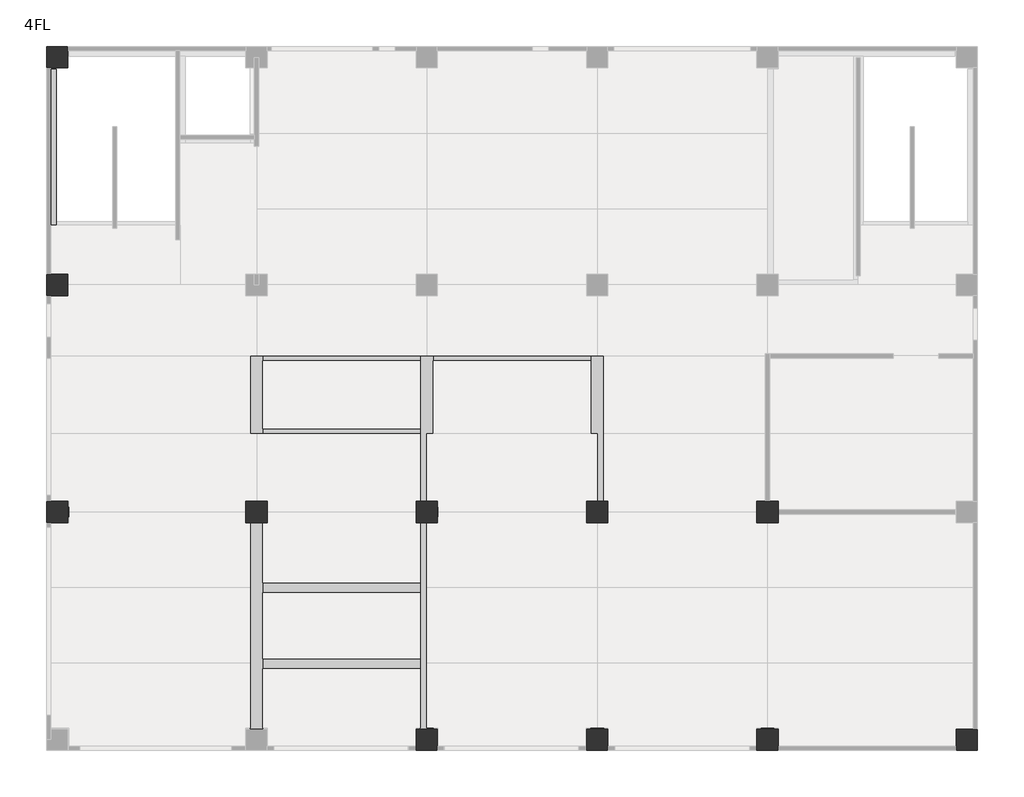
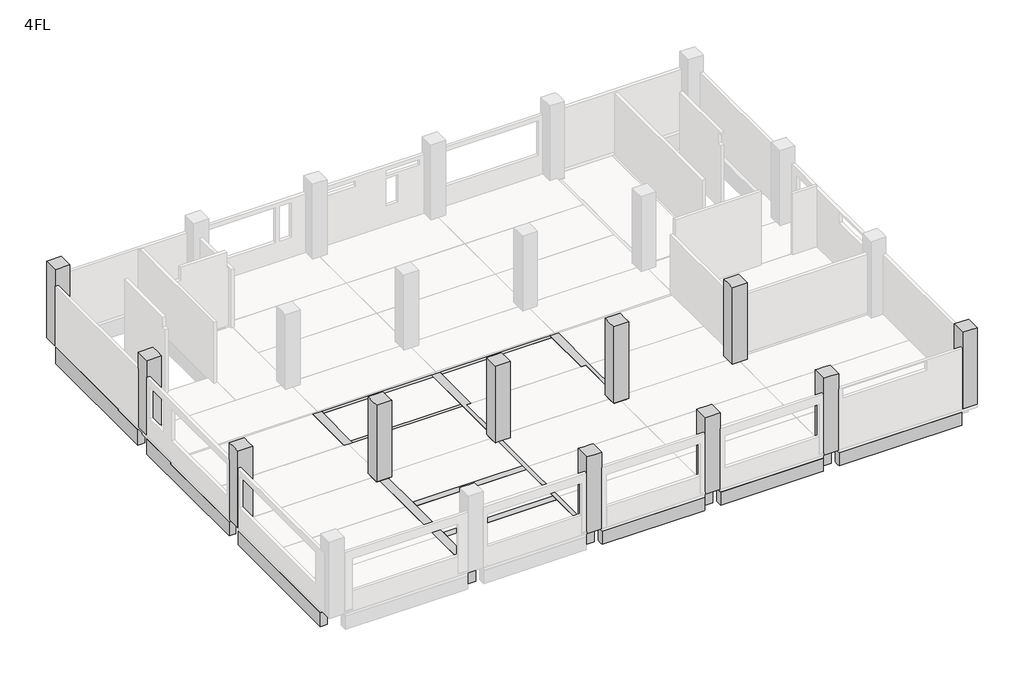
# One storey, part 3 of 4: 37 beams, 11 columns.
"""IFC4 building model written with IfcOpenShell, lengths in millimetres."""

import ifcopenshell
import ifcopenshell.guid

model = None  # the IFC model being written
_history = None  # IfcOwnerHistory: only IFC2X3 demands one
_inside = {}  # id of a spatial element -> (the spatial element, [elements in it])
_under = {}  # id of a project, library or spatial element -> (it, [spatial elements below it])
_declared = {}  # id of a project -> (the project, [libraries it declares])
_typed = {}  # id of a type object -> (the type object, [elements of that type])
_made_of = {}  # id of a material, layer set ... -> (it, [elements and type objects made of it])


def new_model(schema):
    """Start an empty IFC model of exactly this schema.

    Asked for "IFC4X3", IfcOpenShell would pick the latest addendum, in which some entities
    have other attributes; the version numbers below select the first issue.
    IFC2X3 requires an IfcOwnerHistory on every rooted entity: one is made here for all.
    """
    global model, _history
    if schema == "IFC4X3":
        model = ifcopenshell.file(schema_version=(4, 3, 0, 0))
    else:
        model = ifcopenshell.file(schema=schema)
    _inside.clear()
    _under.clear()
    _declared.clear()
    _typed.clear()
    _made_of.clear()
    _history = None
    if model.schema == "IFC2X3":
        org = make("IfcOrganization", Name="unknown")
        user = make(
            "IfcPersonAndOrganization",
            ThePerson=make("IfcPerson", FamilyName="unknown"),
            TheOrganization=org,
        )
        app = make(
            "IfcApplication",
            ApplicationDeveloper=org,
            Version="unknown",
            ApplicationFullName="unknown",
            ApplicationIdentifier="unknown",
        )
        _history = make(
            "IfcOwnerHistory",
            OwningUser=user,
            OwningApplication=app,
            ChangeAction="ADDED",
            CreationDate=0,
        )
    return model


def make(cls, **values):
    """One entity of the class cls with the attributes given. An attribute that is None is left unset."""
    return model.create_entity(
        cls, **{name: value for name, value in values.items() if value is not None}
    )


def rooted(cls, **values):
    """An entity with a GlobalId (a new one), such as an element, a storey or a relation."""
    return make(cls, GlobalId=ifcopenshell.guid.new(), OwnerHistory=_history, **values)


def si_unit(unit_type, name, prefix=None):
    """IfcSIUnit, for example si_unit("LENGTHUNIT", "METRE", prefix="MILLI")."""
    return make("IfcSIUnit", UnitType=unit_type, Prefix=prefix, Name=name)


def assignment(units):
    """IfcUnitAssignment: the units of a project."""
    return None if units is None else make("IfcUnitAssignment", Units=units)


def point(xyz):
    """IfcCartesianPoint."""
    return None if xyz is None else make("IfcCartesianPoint", Coordinates=xyz)


def direction(xyz):
    """IfcDirection."""
    return None if xyz is None else make("IfcDirection", DirectionRatios=xyz)


def frame(location, z_axis=None, x_axis=None):
    """IfcAxis2Placement3D, a coordinate frame: its origin and axes. An axis left out is left unset."""
    return make(
        "IfcAxis2Placement3D",
        Location=point(location),
        Axis=direction(z_axis),
        RefDirection=direction(x_axis),
    )


def origin():
    """The frame at (0, 0, 0) with its axes left unset."""
    return frame((0.0, 0.0, 0.0))


def place(relative_to, where):
    """IfcLocalPlacement: puts the frame where relative to a parent placement (None: the world)."""
    return make(
        "IfcLocalPlacement", PlacementRelTo=relative_to, RelativePlacement=where
    )


def context(
    kind, dimensions, precision=None, world=None, true_north=None, identifier=None
):
    """IfcGeometricRepresentationContext, for example the 3D "Model" context."""
    return make(
        "IfcGeometricRepresentationContext",
        ContextIdentifier=identifier,
        ContextType=kind,
        CoordinateSpaceDimension=dimensions,
        Precision=precision,
        WorldCoordinateSystem=world,
        TrueNorth=true_north,
    )


def project(units=None, contexts=None):
    """IfcProject with its units and contexts."""
    return rooted(
        "IfcProject",
        Name="project",
        RepresentationContexts=contexts,
        UnitsInContext=assignment(units),
    )


def spatial(cls, under=None, at=None, **own):
    """A site, building, storey or space (cls), placed at a placement, below another one or the project."""
    s = rooted(cls, ObjectPlacement=at, **own)
    if under is not None:
        _under.setdefault(under.id(), (under, []))[1].append(s)
    return s


def polyline(points):
    """IfcPolyline through the points."""
    return make("IfcPolyline", Points=[point(p) for p in points])


def outline(outer, holes=None, kind="AREA"):
    """IfcArbitraryClosedProfileDef: a profile drawn as a closed curve; with holes, ...WithVoids."""
    if holes is None:
        return make("IfcArbitraryClosedProfileDef", ProfileType=kind, OuterCurve=outer)
    return make(
        "IfcArbitraryProfileDefWithVoids",
        ProfileType=kind,
        OuterCurve=outer,
        InnerCurves=holes,
    )


def extrude(swept, where, along, depth):
    """IfcExtrudedAreaSolid: the profile swept, set in the frame where, extruded along a direction by depth."""
    return make(
        "IfcExtrudedAreaSolid",
        SweptArea=swept,
        Position=where,
        ExtrudedDirection=direction(along),
        Depth=depth,
    )


def faces_of(points, faces, orient=None, outer=None):
    """IfcFace entities. A face is a list of loops; a loop is a list of indices into points, from 0.

    orient and outer hold one flag for each loop. By default every Orientation is true, the
    first loop of a face is its IfcFaceOuterBound and the others are IfcFaceBound.
    """
    made = []
    for i, loops in enumerate(faces):
        bounds = []
        for j, loop in enumerate(loops):
            is_outer = j == 0 if outer is None else outer[i][j]
            bounds.append(
                make(
                    "IfcFaceOuterBound" if is_outer else "IfcFaceBound",
                    Bound=make("IfcPolyLoop", Polygon=[points[k] for k in loop]),
                    Orientation=True if orient is None else orient[i][j],
                )
            )
        made.append(make("IfcFace", Bounds=bounds))
    return made


def faceted_brep(points, faces, orient=None, outer=None, voids=None):
    """IfcFacetedBrep: a solid bounded by flat faces; with voids (closed shells), ...WithVoids."""
    shared = [point(p) for p in points]
    hull = make("IfcClosedShell", CfsFaces=faces_of(shared, faces, orient, outer))
    if voids is None:
        return make("IfcFacetedBrep", Outer=hull)
    return make(
        "IfcFacetedBrepWithVoids",
        Outer=hull,
        Voids=[
            make(cls, CfsFaces=faces_of(shared, fs, o, b)) for cls, fs, o, b in voids
        ],
    )


def shape(context_of_items, identifier, shape_type, items):
    """IfcShapeRepresentation: the items that make up one representation, for example the "Body"."""
    return make(
        "IfcShapeRepresentation",
        ContextOfItems=context_of_items,
        RepresentationIdentifier=identifier,
        RepresentationType=shape_type,
        Items=items,
    )


def made_of(thing, what):
    """Note that an element or type object is made of a material, layer set ...; save() writes the relation."""
    if what is not None:
        _made_of.setdefault(what.id(), (what, []))[1].append(thing)
    return thing


def element(
    cls,
    number,
    at=None,
    inside=None,
    cuts=None,
    type_object=None,
    material=None,
    context=None,
    identifier="Body",
    shape_type=None,
    held_by="IfcProductDefinitionShape",
    body=None,
    shapes=None,
    **own,
):
    """One element of the class cls, such as IfcWall. Its Tag is "e" and its number.

    at: its placement. inside: the storey or other place that contains it. cuts: it is an
    opening in that element (IfcRelVoidsElement). A single representation is given by context,
    identifier, shape_type and body (its items); several are given by shapes. held_by: the class
    of the entity that holds the representations. save() writes the other relations.
    """
    e = rooted(cls, Tag="e%d" % number, ObjectPlacement=at, **own)
    if body is not None:
        shapes = [shape(context, identifier, shape_type, body)]
    if shapes is not None:
        e.Representation = make(held_by, Representations=shapes)
    if inside is not None:
        _inside.setdefault(inside.id(), (inside, []))[1].append(e)
    if cuts is not None:
        rooted(
            "IfcRelVoidsElement", RelatingBuildingElement=cuts, RelatedOpeningElement=e
        )
    if type_object is not None:
        _typed.setdefault(type_object.id(), (type_object, []))[1].append(e)
    return made_of(e, material)


def aggregate(whole, parts):
    """IfcRelAggregates: a whole, such as a stair, and the parts it consists of."""
    return rooted("IfcRelAggregates", RelatingObject=whole, RelatedObjects=parts)


def save(model, path):
    """Write the relations noted so far, then the file.

    IfcRelAggregates (storeys below a building ...), IfcRelContainedInSpatialStructure (elements
    in a storey), IfcRelDefinesByType, IfcRelAssociatesMaterial and IfcRelDeclares: one each for
    every whole, place, type object, material and project.
    """
    for whole, parts in _under.values():
        aggregate(whole, parts)
    for where, things in _inside.values():
        rooted(
            "IfcRelContainedInSpatialStructure",
            RelatedElements=things,
            RelatingStructure=where,
        )
    for kind, things in _typed.values():
        rooted("IfcRelDefinesByType", RelatedObjects=things, RelatingType=kind)
    for what, things in _made_of.values():
        rooted("IfcRelAssociatesMaterial", RelatedObjects=things, RelatingMaterial=what)
    for by, libraries in _declared.values():
        rooted("IfcRelDeclares", RelatingContext=by, RelatedDefinitions=libraries)
    model.write(path)


model = new_model("IFC4")

# Units and contexts
model_context = context("Model", 3, world=origin())
ifc_project = project(units=[si_unit("LENGTHUNIT", "METRE", prefix="MILLI")], contexts=[model_context])

# Site, building, storey
site = spatial("IfcSite", under=ifc_project)
building = spatial("IfcBuilding", under=site)
storey = spatial("IfcBuildingStorey", under=building, Name="4FL", Elevation=12300.0)

# Beams
placement = place(None, origin())
element("IfcBeam", 1, ObjectType="RC_B : 4G1", at=placement, inside=storey, context=model_context, shape_type="Brep", body=[
    faceted_brep([(18600.0, -50.0, 12050.0), (18600.0, -50.0, 11350.0), (13400.0, -50.0, 11350.0), (13400.0, -50.0, 12050.0), (18600.0, -400.0, 11350.0), (18575.0, -400.0, 11350.0), (13400.0, -400.0, 11350.0), (13400.0, -250.0, 11350.0), (18600.0, -400.0, 12050.0), (13400.0, -400.0, 12050.0)], [[[0, 1, 2, 3]], [[1, 4, 5, 6, 7, 2]], [[4, 8, 9, 6, 5]], [[4, 1, 0, 8]], [[8, 0, 3, 9]], [[3, 2, 7, 6, 9]]]),
])
element("IfcBeam", 2, ObjectType="RC_B : 4G1", at=placement, inside=storey, context=model_context, shape_type="Brep", body=[
    faceted_brep([(24600.0, -50.0, 12050.0), (24600.0, -50.0, 11350.0), (19400.0, -50.0, 11350.0), (19400.0, -50.0, 12050.0), (24600.0, -400.0, 11350.0), (24575.0, -400.0, 11350.0), (19400.0, -400.0, 11350.0), (19400.0, -250.0, 11350.0), (24600.0, -400.0, 12050.0), (19400.0, -400.0, 12050.0)], [[[0, 1, 2, 3]], [[1, 4, 5, 6, 7, 2]], [[4, 8, 9, 6, 5]], [[4, 1, 0, 8]], [[8, 0, 3, 9]], [[3, 2, 7, 6, 9]]]),
])
element("IfcBeam", 3, ObjectType="RC_B : 4G1", at=placement, inside=storey, context=model_context, shape_type="Brep", body=[
    faceted_brep([(31600.0, -50.0, 12050.0), (31600.0, -50.0, 11350.0), (25400.0, -50.0, 11350.0), (25400.0, -50.0, 12050.0), (31600.0, -250.0, 11350.0), (31600.0, -400.0, 11350.0), (25400.0, -400.0, 11350.0), (25400.0, -250.0, 11350.0), (31600.0, -400.0, 12050.0), (25400.0, -400.0, 12050.0)], [[[0, 1, 2, 3]], [[1, 4, 5, 6, 7, 2]], [[5, 8, 9, 6]], [[5, 4, 1, 0, 8]], [[8, 0, 3, 9]], [[3, 2, 7, 6, 9]]]),
])
element("IfcBeam", 4, ObjectType="RC_B : 4G11", at=placement, inside=storey, context=model_context, shape_type="Brep", body=[
    faceted_brep([(-400.0, 7600.0, 12050.0), (-400.0, 7600.0, 11300.0), (-400.0, 400.0, 11300.0), (-400.0, 400.0, 12050.0), (-400.0, 2664.0, 12050.0), (-400.0, 5328.0, 12050.0), (-250.0, 7600.0, 11300.0), (-50.0, 7600.0, 11300.0), (-50.0, 400.0, 11300.0), (-250.0, 400.0, 11300.0), (-50.0, 7600.0, 12050.0), (-50.0, 5505.0, 12050.0), (-50.0, 5155.0, 12050.0), (-50.0, 2835.0, 12050.0), (-50.0, 2485.0, 12050.0), (-50.0, 400.0, 12050.0)], [[[0, 1, 2, 3, 4, 5]], [[1, 6, 7, 8, 9, 2]], [[7, 10, 11, 12, 13, 14, 15, 8]], [[7, 6, 1, 0, 10]], [[10, 0, 5, 4, 3, 15, 14, 13, 12, 11]], [[3, 2, 9, 8, 15]]]),
])
element("IfcBeam", 5, ObjectType="RC_B : 4G11", at=placement, inside=storey, context=model_context, shape_type="Brep", body=[
    faceted_brep([(-400.0, 15600.0, 12140.0), (-400.0, 15600.0, 11300.0), (-400.0, 8400.0, 11300.0), (-400.0, 8400.0, 12050.0), (-400.0, 10752.0, 12050.0), (-400.0, 13504.0, 12050.0), (-400.0, 13504.0, 12140.0), (-250.0, 15600.0, 11300.0), (-50.0, 15600.0, 11300.0), (-50.0, 8400.0, 11300.0), (-250.0, 8400.0, 11300.0), (-50.0, 15600.0, 12140.0), (-50.0, 13675.0, 12140.0), (-50.0, 13504.0, 12140.0), (-50.0, 13504.0, 12050.0), (-50.0, 13325.0, 12050.0), (-50.0, 10925.0, 12050.0), (-50.0, 10575.0, 12050.0), (-50.0, 8400.0, 12050.0)], [[[0, 1, 2, 3, 4, 5, 6]], [[1, 7, 8, 9, 10, 2]], [[8, 11, 12, 13, 14, 15, 16, 17, 18, 9]], [[8, 7, 1, 0, 11]], [[0, 6, 13, 12, 11]], [[14, 5, 4, 3, 18, 17, 16, 15]], [[5, 14, 13, 6]], [[3, 2, 10, 9, 18]]]),
])
element("IfcBeam", 6, ObjectType="RC_B : 4G11", at=placement, inside=storey, context=model_context, shape_type="Brep", body=[
    faceted_brep([(-400.0, 23600.0, 12200.0), (-400.0, 23600.0, 11300.0), (-400.0, 16400.0, 11300.0), (-400.0, 16400.0, 12140.0), (-400.0, 18100.0, 12140.0), (-400.0, 18100.0, 12200.0), (-250.0, 23600.0, 11300.0), (-50.0, 23600.0, 11300.0), (-50.0, 16400.0, 11300.0), (-250.0, 16400.0, 11300.0), (-50.0, 23600.0, 12200.0), (-50.0, 18225.0, 12200.0), (-50.0, 18100.0, 12200.0), (-50.0, 18100.0, 12140.0), (-50.0, 17975.0, 12140.0), (-50.0, 16400.0, 12140.0), (-250.0, 18100.0, 12200.0)], [[[0, 1, 2, 3, 4, 5]], [[1, 6, 7, 8, 9, 2]], [[7, 10, 11, 12, 13, 14, 15, 8]], [[10, 0, 5, 16, 12, 11]], [[1, 0, 10, 7, 6]], [[13, 4, 3, 15, 14]], [[4, 13, 12, 16, 5]], [[3, 2, 9, 8, 15]]]),
])
element("IfcBeam", 7, ObjectType="RC_B : 4G12", at=placement, inside=storey, context=model_context, shape_type="Brep", body=[
    faceted_brep([(6775.0, 0.0, 11300.0), (6775.0, 0.0, 12200.0), (6775.0, 400.0, 12200.0), (6775.0, 2664.0, 12200.0), (6775.0, 5328.0, 12200.0), (6775.0, 7600.0, 12200.0), (6775.0, 7600.0, 12050.0), (6775.0, 7600.0, 11300.0), (7225.0, 0.0, 11300.0), (7225.0, 7600.0, 11300.0), (7225.0, 0.0, 12200.0), (7225.0, 7600.0, 12050.0), (7225.0, 7600.0, 12200.0), (7225.0, 5505.0, 12200.0), (7225.0, 5155.0, 12200.0), (7225.0, 2835.0, 12200.0), (7225.0, 2485.0, 12200.0), (7225.0, 400.0, 12200.0)], [[[0, 1, 2, 3, 4, 5, 6, 7]], [[8, 0, 7, 9]], [[10, 8, 9, 11, 12, 13, 14, 15, 16, 17]], [[1, 10, 17, 16, 15, 14, 13, 12, 5, 4, 3, 2]], [[7, 6, 5, 12, 11, 9]], [[1, 0, 8, 10]]]),
])
element("IfcBeam", 8, ObjectType="RC_B : 4G12", at=placement, inside=storey, context=model_context, shape_type="Brep", body=[
    faceted_brep([(6775.0, 15600.0, 11300.0), (6775.0, 8000.0, 11300.0), (6775.0, 8000.0, 12050.0), (6775.0, 10575.0, 12050.0), (6775.0, 10752.0, 12050.0), (6775.0, 10752.0, 12200.0), (6775.0, 13504.0, 12200.0), (6775.0, 13504.0, 12140.0), (6775.0, 13675.0, 12140.0), (6775.0, 15600.0, 12140.0), (7225.0, 15600.0, 11300.0), (7225.0, 8000.0, 11300.0), (7225.0, 15600.0, 12140.0), (7225.0, 15600.0, 12200.0), (7225.0, 13675.0, 12200.0), (7225.0, 13325.0, 12200.0), (7225.0, 10925.0, 12200.0), (7225.0, 10752.0, 12200.0), (7225.0, 10752.0, 12050.0), (7225.0, 10575.0, 12050.0), (7225.0, 8175.0, 12050.0), (7225.0, 8000.0, 12050.0), (7000.0, 15600.0, 12200.0), (7000.0, 13504.0, 12200.0), (7000.0, 10752.0, 12200.0), (7000.0, 15600.0, 12140.0), (7000.0, 13504.0, 12140.0), (7000.0, 10752.0, 12050.0)], [[[0, 1, 2, 3, 4, 5, 6, 7, 8, 9]], [[0, 10, 11, 1]], [[10, 12, 13, 14, 15, 16, 17, 18, 19, 20, 21, 11]], [[13, 22, 23, 6, 5, 24, 17, 16, 15, 14]], [[10, 0, 9, 25, 22, 13, 12]], [[1, 11, 21, 2]], [[7, 26, 25, 9, 8]], [[25, 26, 23, 22]], [[26, 7, 6, 23]], [[4, 3, 2, 21, 20, 19, 18, 27]], [[4, 27, 18, 17, 24, 5]]]),
])
element("IfcBeam", 9, ObjectType="RC_B : 4G12", at=placement, inside=storey, context=model_context, shape_type="Brep", body=[
    faceted_brep([(12775.0, 7600.0, 12200.0), (12775.0, 7600.0, 12050.0), (12775.0, 7600.0, 11300.0), (12775.0, 0.0, 11300.0), (12775.0, 0.0, 12200.0), (12775.0, 400.0, 12200.0), (12775.0, 2485.0, 12200.0), (12775.0, 2835.0, 12200.0), (12775.0, 5155.0, 12200.0), (12775.0, 5505.0, 12200.0), (13225.0, 7600.0, 11300.0), (13225.0, 0.0, 11300.0), (13225.0, 7600.0, 12050.0), (13225.0, 5505.0, 12050.0), (13225.0, 5155.0, 12050.0), (13225.0, 2835.0, 12050.0), (13225.0, 2485.0, 12050.0), (13225.0, 0.0, 12050.0), (13000.0, 0.0, 12200.0), (13000.0, 400.0, 12200.0), (13000.0, 2664.0, 12200.0), (13000.0, 5328.0, 12200.0), (13000.0, 7600.0, 12200.0), (13000.0, 7600.0, 12050.0), (13000.0, 0.0, 12050.0), (13000.0, 5328.0, 12050.0), (13000.0, 2664.0, 12050.0), (13000.0, 400.0, 12050.0)], [[[0, 1, 2, 3, 4, 5, 6, 7, 8, 9]], [[2, 10, 11, 3]], [[11, 10, 12, 13, 14, 15, 16, 17]], [[0, 9, 8, 7, 6, 5, 4, 18, 19, 20, 21, 22]], [[10, 2, 1, 0, 22, 23, 12]], [[4, 3, 11, 17, 24, 18]], [[24, 17, 16, 15, 14, 13, 12, 23, 25, 26, 27]], [[18, 24, 27, 26, 25, 23, 22, 21, 20, 19]]]),
])
element("IfcBeam", 10, ObjectType="RC_B : 4G12", at=placement, inside=storey, context=model_context, shape_type="Brep", body=[
    faceted_brep([(12775.0, 15600.0, 11300.0), (12775.0, 8000.0, 11300.0), (12775.0, 8000.0, 11350.0), (12775.0, 8175.0, 11350.0), (12775.0, 8175.0, 12200.0), (12775.0, 8400.0, 12200.0), (12775.0, 10752.0, 12200.0), (12775.0, 10925.0, 12200.0), (12775.0, 13325.0, 12200.0), (12775.0, 13504.0, 12200.0), (12775.0, 13504.0, 12140.0), (12775.0, 15600.0, 12140.0), (13225.0, 15600.0, 11300.0), (13225.0, 8000.0, 11300.0), (13225.0, 15600.0, 12140.0), (13225.0, 13504.0, 12140.0), (13225.0, 13504.0, 12200.0), (13225.0, 13325.0, 12200.0), (13225.0, 10752.0, 12200.0), (13225.0, 10752.0, 12050.0), (13225.0, 10575.0, 12050.0), (13225.0, 8175.0, 12050.0), (13225.0, 8000.0, 12050.0), (13000.0, 8175.0, 12200.0), (13000.0, 8400.0, 12200.0), (13000.0, 10752.0, 12200.0), (13000.0, 15600.0, 12140.0), (13000.0, 8000.0, 12050.0), (13000.0, 8000.0, 11350.0), (13000.0, 8175.0, 11350.0), (13000.0, 8175.0, 12050.0), (13000.0, 10752.0, 12050.0), (13000.0, 8400.0, 12050.0)], [[[0, 1, 2, 3, 4, 5, 6, 7, 8, 9, 10, 11]], [[0, 12, 13, 1]], [[13, 12, 14, 15, 16, 17, 18, 19, 20, 21, 22]], [[4, 23, 24, 25, 18, 17, 16, 9, 8, 7, 6, 5]], [[12, 0, 11, 26, 14]], [[1, 13, 22, 27, 28, 2]], [[3, 29, 30, 23, 4]], [[29, 3, 2, 28]], [[29, 28, 27, 30]], [[11, 10, 15, 14, 26]], [[10, 9, 16, 15]], [[31, 32, 30, 27, 22, 21, 20, 19]], [[31, 25, 24, 23, 30, 32]], [[25, 31, 19, 18]]]),
])
element("IfcBeam", 11, ObjectType="RC_B : 4G12", at=placement, inside=storey, context=model_context, shape_type="Brep", body=[
    faceted_brep([(18775.0, 7600.0, 11300.0), (18775.0, 0.0, 11300.0), (18775.0, 0.0, 12050.0), (18775.0, 2485.0, 12050.0), (18775.0, 2835.0, 12050.0), (18775.0, 5155.0, 12050.0), (18775.0, 5505.0, 12050.0), (18775.0, 7600.0, 12050.0), (19225.0, 7600.0, 11300.0), (19225.0, 0.0, 11300.0), (19225.0, 7600.0, 12050.0), (19225.0, 5505.0, 12050.0), (19225.0, 5155.0, 12050.0), (19225.0, 2835.0, 12050.0), (19225.0, 2485.0, 12050.0), (19225.0, 0.0, 12050.0), (19000.0, 7600.0, 12050.0)], [[[0, 1, 2, 3, 4, 5, 6, 7]], [[0, 8, 9, 1]], [[9, 8, 10, 11, 12, 13, 14, 15]], [[8, 0, 7, 16, 10]], [[1, 9, 15, 2]], [[2, 15, 14, 13, 12, 11, 10, 16, 7, 6, 5, 4, 3]]]),
])
element("IfcBeam", 12, ObjectType="RC_B : 4G12", at=placement, inside=storey, context=model_context, shape_type="Brep", body=[
    faceted_brep([(18775.0, 15600.0, 11300.0), (18775.0, 8000.0, 11300.0), (18775.0, 8000.0, 11350.0), (18775.0, 8175.0, 11350.0), (18775.0, 8175.0, 12050.0), (18775.0, 10575.0, 12050.0), (18775.0, 10752.0, 12050.0), (18775.0, 10752.0, 12200.0), (18775.0, 13325.0, 12200.0), (18775.0, 13504.0, 12200.0), (18775.0, 13504.0, 12140.0), (18775.0, 15600.0, 12140.0), (19225.0, 15600.0, 11300.0), (19225.0, 8000.0, 11300.0), (19225.0, 15600.0, 12140.0), (19225.0, 13504.0, 12140.0), (19225.0, 13504.0, 12200.0), (19225.0, 10752.0, 12200.0), (19225.0, 8400.0, 12200.0), (19225.0, 8000.0, 12200.0), (19000.0, 10752.0, 12200.0), (19000.0, 8400.0, 12200.0), (19000.0, 8000.0, 12200.0), (19000.0, 15600.0, 12140.0), (19000.0, 8000.0, 11350.0), (19000.0, 8175.0, 11350.0), (19000.0, 8175.0, 12050.0), (19000.0, 10752.0, 12050.0), (19000.0, 8400.0, 12050.0)], [[[0, 1, 2, 3, 4, 5, 6, 7, 8, 9, 10, 11]], [[0, 12, 13, 1]], [[13, 12, 14, 15, 16, 17, 18, 19]], [[20, 21, 22, 19, 18, 17, 16, 9, 8, 7]], [[12, 0, 11, 23, 14]], [[1, 13, 19, 22, 24, 2]], [[3, 25, 26, 4]], [[25, 3, 2, 24]], [[25, 24, 22, 21, 20, 27, 28, 26]], [[11, 10, 15, 14, 23]], [[10, 9, 16, 15]], [[26, 28, 27, 6, 5, 4]], [[27, 20, 7, 6]]]),
])
element("IfcBeam", 13, ObjectType="RC_B : 4G12", at=placement, inside=storey, context=model_context, shape_type="Brep", body=[
    faceted_brep([(24775.0, 7600.0, 11300.0), (24775.0, 0.0, 11300.0), (24775.0, 0.0, 12050.0), (24775.0, 2485.0, 12050.0), (24775.0, 2835.0, 12050.0), (24775.0, 5155.0, 12050.0), (24775.0, 5505.0, 12050.0), (24775.0, 7600.0, 12050.0), (25225.0, 7600.0, 11300.0), (25225.0, 0.0, 11300.0), (25225.0, 7600.0, 12050.0), (25225.0, 5505.0, 12050.0), (25225.0, 5155.0, 12050.0), (25225.0, 2835.0, 12050.0), (25225.0, 2485.0, 12050.0), (25225.0, 0.0, 12050.0)], [[[0, 1, 2, 3, 4, 5, 6, 7]], [[0, 8, 9, 1]], [[9, 8, 10, 11, 12, 13, 14, 15]], [[8, 0, 7, 10]], [[1, 9, 15, 2]], [[7, 6, 5, 4, 3, 2, 15, 14, 13, 12, 11, 10]]]),
])
element("IfcBeam", 14, ObjectType="RC_B : 4G2", at=placement, inside=storey, context=model_context, shape_type="Brep", body=[
    faceted_brep([(6600.0, 8175.0, 11350.0), (0.0, 8175.0, 11350.0), (0.0, 8175.0, 12050.0), (6600.0, 8175.0, 12050.0), (6600.0, 7825.0, 11350.0), (0.0, 7825.0, 11350.0), (6600.0, 7825.0, 12050.0), (0.0, 7825.0, 12050.0), (6600.0, 8000.0, 12050.0)], [[[0, 1, 2, 3]], [[0, 4, 5, 1]], [[5, 4, 6, 7]], [[4, 0, 3, 8, 6]], [[1, 5, 7, 2]], [[7, 6, 8, 3, 2]]]),
])
element("IfcBeam", 15, ObjectType="RC_B : 4G2", at=placement, inside=storey, context=model_context, shape_type="Brep", body=[
    faceted_brep([(12600.0, 8175.0, 11350.0), (7225.0, 8175.0, 11350.0), (7225.0, 8175.0, 12050.0), (12600.0, 8175.0, 12050.0), (12600.0, 7825.0, 11350.0), (7225.0, 7825.0, 11350.0), (12600.0, 7825.0, 12050.0), (7225.0, 7825.0, 12050.0), (12600.0, 8000.0, 12050.0), (7225.0, 8000.0, 12050.0)], [[[0, 1, 2, 3]], [[0, 4, 5, 1]], [[5, 4, 6, 7]], [[4, 0, 3, 8, 6]], [[1, 5, 7, 9, 2]], [[7, 6, 8, 3, 2, 9]]]),
])
element("IfcBeam", 16, ObjectType="RC_B : 4G2", at=placement, inside=storey, context=model_context, shape_type="Brep", body=[
    faceted_brep([(18600.0, 8175.0, 11350.0), (13225.0, 8175.0, 11350.0), (13225.0, 8175.0, 12050.0), (18600.0, 8175.0, 12050.0), (18600.0, 7825.0, 11350.0), (13225.0, 7825.0, 11350.0), (18600.0, 7825.0, 12050.0), (13225.0, 7825.0, 12050.0), (18600.0, 8000.0, 12050.0), (13225.0, 8000.0, 12050.0)], [[[0, 1, 2, 3]], [[0, 4, 5, 1]], [[5, 4, 6, 7]], [[4, 0, 3, 8, 6]], [[1, 5, 7, 9, 2]], [[7, 6, 8, 3, 2, 9]]]),
])
element("IfcBeam", 17, ObjectType="RC_B : 4G2", at=placement, inside=storey, context=model_context, shape_type="Brep", body=[
    faceted_brep([(24600.0, 8175.0, 11350.0), (19225.0, 8175.0, 11350.0), (19225.0, 8175.0, 12050.0), (24600.0, 8175.0, 12050.0), (24600.0, 7825.0, 11350.0), (19225.0, 7825.0, 11350.0), (24600.0, 7825.0, 12050.0), (19225.0, 7825.0, 12050.0), (24600.0, 8000.0, 12050.0)], [[[0, 1, 2, 3]], [[0, 4, 5, 1]], [[5, 4, 6, 7]], [[4, 0, 3, 8, 6]], [[1, 5, 7, 2]], [[7, 6, 8, 3, 2]]]),
])
element("IfcBeam", 18, ObjectType="RC_B : 4G2", at=placement, inside=storey, context=model_context, shape_type="Brep", body=[
    faceted_brep([(31600.0, 8175.0, 11350.0), (25225.0, 8175.0, 11350.0), (25225.0, 8175.0, 12140.0), (31600.0, 8175.0, 12140.0), (31600.0, 7825.0, 11350.0), (25225.0, 7825.0, 11350.0), (25225.0, 8000.0, 11350.0), (25225.0, 8075.0, 11350.0), (31600.0, 7825.0, 12050.0), (25225.0, 7825.0, 12050.0), (31600.0, 8000.0, 12140.0), (31600.0, 8000.0, 12050.0), (25225.0, 8000.0, 12050.0), (25225.0, 8000.0, 12140.0), (25400.0, 8000.0, 12050.0), (25400.0, 8000.0, 12140.0)], [[[0, 1, 2, 3]], [[0, 4, 5, 6, 7, 1]], [[5, 4, 8, 9]], [[4, 0, 3, 10, 11, 8]], [[1, 7, 6, 5, 9, 12, 13, 2]], [[11, 14, 12, 9, 8]], [[12, 14, 11, 10, 15, 13]], [[3, 2, 13, 15, 10]]]),
])
element("IfcBeam", 19, ObjectType="RC_B : B1", at=placement, inside=storey, context=model_context, shape_type="Brep", body=[
    faceted_brep([(6775.0, 2835.0, 11450.0), (-50.0, 2835.0, 11450.0), (-50.0, 2835.0, 12050.0), (6775.0, 2835.0, 12050.0), (6775.0, 2485.0, 11450.0), (-50.0, 2485.0, 11450.0), (6775.0, 2485.0, 12050.0), (-50.0, 2485.0, 12050.0), (6775.0, 2664.0, 12050.0)], [[[0, 1, 2, 3]], [[0, 4, 5, 1]], [[5, 4, 6, 7]], [[4, 0, 3, 8, 6]], [[1, 5, 7, 2]], [[7, 6, 8, 3, 2]]]),
])
element("IfcBeam", 20, ObjectType="RC_B : B1", at=placement, inside=storey, context=model_context, shape_type="Brep", body=[
    faceted_brep([(6775.0, 5505.0, 11450.0), (-50.0, 5505.0, 11450.0), (-50.0, 5505.0, 12050.0), (6775.0, 5505.0, 12050.0), (6775.0, 5155.0, 11450.0), (-50.0, 5155.0, 11450.0), (6775.0, 5155.0, 12050.0), (-50.0, 5155.0, 12050.0), (6775.0, 5328.0, 12050.0)], [[[0, 1, 2, 3]], [[0, 4, 5, 1]], [[5, 4, 6, 7]], [[4, 0, 3, 8, 6]], [[1, 5, 7, 2]], [[3, 2, 7, 6, 8]]]),
])
element("IfcBeam", 21, ObjectType="RC_B : B1", at=placement, inside=storey, context=model_context, shape_type="Brep", body=[
    faceted_brep([(7225.0, 2835.0, 11450.0), (7225.0, 2835.0, 12050.0), (7225.0, 2835.0, 12200.0), (12775.0, 2835.0, 12200.0), (12775.0, 2835.0, 12050.0), (12775.0, 2835.0, 11450.0), (7225.0, 2485.0, 11450.0), (12775.0, 2485.0, 11450.0), (7225.0, 2485.0, 12200.0), (7225.0, 2485.0, 12050.0), (12775.0, 2485.0, 12050.0), (12775.0, 2485.0, 12200.0)], [[[0, 1, 2, 3, 4, 5]], [[6, 0, 5, 7]], [[8, 9, 6, 7, 10, 11]], [[2, 8, 11, 3]], [[2, 1, 0, 6, 9, 8]], [[5, 4, 3, 11, 10, 7]]]),
])
element("IfcBeam", 22, ObjectType="RC_B : B1", at=placement, inside=storey, context=model_context, shape_type="Brep", body=[
    faceted_brep([(7225.0, 5505.0, 11450.0), (7225.0, 5505.0, 12050.0), (7225.0, 5505.0, 12200.0), (12775.0, 5505.0, 12200.0), (12775.0, 5505.0, 12050.0), (12775.0, 5505.0, 11450.0), (7225.0, 5155.0, 11450.0), (12775.0, 5155.0, 11450.0), (7225.0, 5155.0, 12200.0), (7225.0, 5155.0, 12050.0), (12775.0, 5155.0, 12050.0), (12775.0, 5155.0, 12200.0)], [[[0, 1, 2, 3, 4, 5]], [[6, 0, 5, 7]], [[8, 9, 6, 7, 10, 11]], [[2, 8, 11, 3]], [[2, 1, 0, 6, 9, 8]], [[5, 4, 3, 11, 10, 7]]]),
])
element("IfcBeam", 23, ObjectType="RC_B : B1", at=placement, inside=storey, context=model_context, shape_type="SweptSolid", body=[
    extrude(outline(polyline([(13675.0, 11450.0), (13325.0, 11450.0), (13325.0, 12050.0), (13504.0, 12050.0), (13504.0, 12140.0), (13675.0, 12140.0), (13675.0, 11450.0)])), frame((-50.0, 0.0, 0.0), z_axis=(1.0, 0.0, 0.0), x_axis=(0.0, 1.0, 0.0)), (0.0, 0.0, 1.0), 6825.0),
])
element("IfcBeam", 24, ObjectType="RC_B : B1", at=placement, inside=storey, context=model_context, shape_type="Brep", body=[
    faceted_brep([(7225.0, 13675.0, 11450.0), (7225.0, 13675.0, 12140.0), (7225.0, 13675.0, 12200.0), (12775.0, 13675.0, 12200.0), (12775.0, 13675.0, 11450.0), (7225.0, 13325.0, 11450.0), (12775.0, 13325.0, 11450.0), (7225.0, 13325.0, 12200.0), (7225.0, 13325.0, 12050.0), (12775.0, 13325.0, 12050.0), (12775.0, 13325.0, 12200.0), (12775.0, 13504.0, 12200.0)], [[[0, 1, 2, 3, 4]], [[5, 0, 4, 6]], [[7, 8, 5, 6, 9, 10]], [[2, 7, 10, 11, 3]], [[2, 1, 0, 5, 8, 7]], [[4, 3, 11, 10, 9, 6]]]),
])
element("IfcBeam", 25, ObjectType="RC_B : B1", at=placement, inside=storey, context=model_context, shape_type="Brep", body=[
    faceted_brep([(6775.0, 10925.0, 11450.0), (-50.0, 10925.0, 11450.0), (-50.0, 10925.0, 12050.0), (6775.0, 10925.0, 12050.0), (6775.0, 10575.0, 11450.0), (-50.0, 10575.0, 11450.0), (6775.0, 10575.0, 12050.0), (-50.0, 10575.0, 12050.0), (6775.0, 10752.0, 12050.0)], [[[0, 1, 2, 3]], [[0, 4, 5, 1]], [[5, 4, 6, 7]], [[4, 0, 3, 8, 6]], [[1, 5, 7, 2]], [[7, 6, 8, 3, 2]]]),
])
element("IfcBeam", 26, ObjectType="RC_B : B1", at=placement, inside=storey, context=model_context, shape_type="Brep", body=[
    faceted_brep([(7225.0, 10925.0, 11450.0), (7225.0, 10925.0, 12050.0), (7225.0, 10925.0, 12200.0), (12775.0, 10925.0, 12200.0), (12775.0, 10925.0, 12050.0), (12775.0, 10925.0, 11450.0), (7225.0, 10575.0, 11450.0), (12775.0, 10575.0, 11450.0), (12775.0, 10575.0, 12050.0), (7225.0, 10575.0, 12050.0), (7225.0, 10752.0, 12200.0), (12775.0, 10752.0, 12200.0), (7225.0, 10752.0, 12050.0), (12775.0, 10752.0, 12050.0)], [[[0, 1, 2, 3, 4, 5]], [[6, 0, 5, 7]], [[6, 7, 8, 9]], [[3, 2, 10, 11]], [[2, 1, 0, 6, 9, 12, 10]], [[5, 4, 3, 11, 13, 8, 7]], [[13, 12, 9, 8]], [[12, 13, 11, 10]]]),
])
element("IfcBeam", 27, ObjectType="RC_B : B2", at=placement, inside=storey, context=model_context, shape_type="SweptSolid", body=[
    extrude(outline(polyline([(13225.0, 2485.0), (13225.0, 2835.0), (18775.0, 2835.0), (18775.0, 2485.0), (13225.0, 2485.0)])), frame((0.0, 0.0, 11450.0), z_axis=(0.0, 0.0, 1.0), x_axis=(1.0, 0.0, 0.0)), (0.0, 0.0, 1.0), 600.0),
])
element("IfcBeam", 28, ObjectType="RC_B : B2", at=placement, inside=storey, context=model_context, shape_type="SweptSolid", body=[
    extrude(outline(polyline([(13225.0, 5155.0), (13225.0, 5505.0), (18775.0, 5505.0), (18775.0, 5155.0), (13225.0, 5155.0)])), frame((0.0, 0.0, 11450.0), z_axis=(0.0, 0.0, 1.0), x_axis=(1.0, 0.0, 0.0)), (0.0, 0.0, 1.0), 600.0),
])
element("IfcBeam", 29, ObjectType="RC_B : B2", at=placement, inside=storey, context=model_context, shape_type="SweptSolid", body=[
    extrude(outline(polyline([(24775.0, 2835.0), (24775.0, 2485.0), (19225.0, 2485.0), (19225.0, 2835.0), (24775.0, 2835.0)])), frame((0.0, 0.0, 11450.0), z_axis=(0.0, 0.0, 1.0), x_axis=(1.0, 0.0, 0.0)), (0.0, 0.0, 1.0), 600.0),
])
element("IfcBeam", 30, ObjectType="RC_B : B2", at=placement, inside=storey, context=model_context, shape_type="SweptSolid", body=[
    extrude(outline(polyline([(19225.0, 5155.0), (19225.0, 5505.0), (24775.0, 5505.0), (24775.0, 5155.0), (19225.0, 5155.0)])), frame((0.0, 0.0, 11450.0), z_axis=(0.0, 0.0, 1.0), x_axis=(1.0, 0.0, 0.0)), (0.0, 0.0, 1.0), 600.0),
])
element("IfcBeam", 31, ObjectType="RC_B : B2", at=placement, inside=storey, context=model_context, shape_type="SweptSolid", body=[
    extrude(outline(polyline([(25225.0, 2485.0), (25225.0, 2835.0), (32050.0, 2835.0), (32050.0, 2485.0), (25225.0, 2485.0)])), frame((0.0, 0.0, 11450.0), z_axis=(0.0, 0.0, 1.0), x_axis=(1.0, 0.0, 0.0)), (0.0, 0.0, 1.0), 600.0),
])
element("IfcBeam", 32, ObjectType="RC_B : B2", at=placement, inside=storey, context=model_context, shape_type="SweptSolid", body=[
    extrude(outline(polyline([(25225.0, 5155.0), (25225.0, 5505.0), (32050.0, 5505.0), (32050.0, 5155.0), (25225.0, 5155.0)])), frame((0.0, 0.0, 11450.0), z_axis=(0.0, 0.0, 1.0), x_axis=(1.0, 0.0, 0.0)), (0.0, 0.0, 1.0), 600.0),
])
element("IfcBeam", 33, ObjectType="RC_B : B2", at=placement, inside=storey, context=model_context, shape_type="Brep", body=[
    faceted_brep([(13225.0, 13675.0, 11450.0), (13225.0, 13675.0, 12200.0), (18775.0, 13675.0, 12200.0), (18775.0, 13675.0, 11450.0), (13225.0, 13325.0, 11450.0), (18775.0, 13325.0, 11450.0), (13225.0, 13325.0, 12200.0), (13225.0, 13325.0, 12050.0), (18775.0, 13325.0, 12050.0), (18775.0, 13325.0, 12200.0), (13225.0, 13504.0, 12200.0), (18775.0, 13504.0, 12200.0)], [[[0, 1, 2, 3]], [[4, 0, 3, 5]], [[6, 7, 4, 5, 8, 9]], [[1, 10, 6, 9, 11, 2]], [[1, 0, 4, 7, 6, 10]], [[3, 2, 11, 9, 8, 5]]]),
])
element("IfcBeam", 34, ObjectType="RC_B : B2", at=placement, inside=storey, context=model_context, shape_type="Brep", body=[
    faceted_brep([(24912.3, 13675.0, 12200.0), (24912.3, 13675.0, 12140.0), (24912.3, 13675.0, 11450.0), (24775.0, 13675.0, 11450.0), (19225.0, 13675.0, 11450.0), (19225.0, 13675.0, 12200.0), (24912.3, 13325.0, 11450.0), (24775.0, 13325.0, 11450.0), (19225.0, 13325.0, 11450.0), (24912.3, 13325.0, 12050.0), (24775.0, 13325.0, 12050.0), (19225.0, 13325.0, 12050.0), (24912.3, 13504.0, 12200.0), (19225.0, 13504.0, 12200.0), (24912.3, 13504.0, 12140.0), (24912.3, 13504.0, 12050.0), (19225.0, 13504.0, 12050.0)], [[[0, 1, 2, 3, 4, 5]], [[2, 6, 7, 8, 4, 3]], [[6, 9, 10, 11, 8, 7]], [[12, 0, 5, 13]], [[2, 1, 0, 12, 14, 15, 9, 6]], [[9, 15, 16, 11, 10]], [[15, 14, 12, 13, 16]], [[5, 4, 8, 11, 16, 13]]]),
])
element("IfcBeam", 35, ObjectType="RC_B : B2", at=placement, inside=storey, context=model_context, shape_type="Brep", body=[
    faceted_brep([(24775.0, 10925.0, 11450.0), (19225.0, 10925.0, 11450.0), (19225.0, 10925.0, 12050.0), (24775.0, 10925.0, 12050.0), (19225.0, 10575.0, 11450.0), (24775.0, 10575.0, 11450.0), (24775.0, 10575.0, 12050.0), (19225.0, 10575.0, 12050.0), (19225.0, 10752.0, 12050.0)], [[[0, 1, 2, 3]], [[4, 1, 0, 5]], [[4, 5, 6, 7]], [[1, 4, 7, 8, 2]], [[5, 0, 3, 6]], [[3, 2, 8, 7, 6]]]),
])
element("IfcBeam", 36, ObjectType="RC_B : B2", at=placement, inside=storey, context=model_context, shape_type="SweptSolid", body=[
    extrude(outline(polyline([(25225.0, 10575.0), (25225.0, 10925.0), (32050.0, 10925.0), (32050.0, 10575.0), (25225.0, 10575.0)])), frame((0.0, 0.0, 11450.0), z_axis=(0.0, 0.0, 1.0), x_axis=(1.0, 0.0, 0.0)), (0.0, 0.0, 1.0), 690.0),
])
element("IfcBeam", 37, ObjectType="RC_B : B2", at=placement, inside=storey, context=model_context, shape_type="Brep", body=[
    faceted_brep([(18775.0, 10925.0, 11450.0), (13225.0, 10925.0, 11450.0), (13225.0, 10925.0, 12050.0), (18775.0, 10925.0, 12050.0), (13225.0, 10575.0, 11450.0), (18775.0, 10575.0, 11450.0), (18775.0, 10575.0, 12050.0), (13225.0, 10575.0, 12050.0), (13225.0, 10752.0, 12050.0), (18775.0, 10752.0, 12050.0)], [[[0, 1, 2, 3]], [[4, 1, 0, 5]], [[4, 5, 6, 7]], [[1, 4, 7, 8, 2]], [[5, 0, 3, 9, 6]], [[7, 6, 9, 3, 2, 8]]]),
])

# Columns
element("IfcColumn", 38, ObjectType="RC_C_B : 4C1", at=placement, inside=storey, context=model_context, shape_type="Brep", body=[
    faceted_brep([(13375.0, 350.0, 12200.0), (13375.0, -250.0, 12200.0), (13375.0, -400.0, 12200.0), (12625.0, -400.0, 12200.0), (12625.0, 350.0, 12200.0), (13375.0, 350.0, 16300.0), (13375.0, -400.0, 16300.0), (13375.0, -400.0, 16240.0), (13375.0, -400.0, 15450.0), (13375.0, 350.0, 16240.0), (13000.0, -400.0, 16300.0), (12625.0, -400.0, 16300.0), (12625.0, -400.0, 16240.0), (12625.0, -400.0, 15450.0), (12625.0, 350.0, 16300.0), (12625.0, 350.0, 16240.0), (12825.0, 350.0, 16300.0), (13000.0, 350.0, 16300.0), (13175.0, 350.0, 16300.0)], [[[0, 1, 2, 3, 4]], [[5, 6, 7, 8, 2, 1, 0, 9]], [[6, 10, 11, 12, 13, 3, 2, 8, 7]], [[11, 14, 15, 4, 3, 13, 12]], [[14, 16, 17, 18, 5, 9, 0, 4, 15]], [[5, 18, 17, 16, 14, 11, 10, 6]]]),
])
element("IfcColumn", 39, ObjectType="RC_C_B : 4C1", at=placement, inside=storey, context=model_context, shape_type="Brep", body=[
    faceted_brep([(19375.0, 350.0, 12200.0), (19375.0, -250.0, 12200.0), (19375.0, -400.0, 12200.0), (18625.0, -400.0, 12200.0), (18625.0, -250.0, 12200.0), (18625.0, 350.0, 12200.0), (19375.0, 350.0, 16300.0), (19375.0, -400.0, 16300.0), (19375.0, -400.0, 16240.0), (19375.0, -400.0, 15450.0), (19375.0, 350.0, 16240.0), (19000.0, -400.0, 16300.0), (18625.0, -400.0, 16300.0), (18625.0, -400.0, 16240.0), (18625.0, -400.0, 15450.0), (18625.0, -400.0, 12300.0), (18625.0, 350.0, 16300.0), (18625.0, 350.0, 16240.0), (18825.0, 350.0, 16300.0), (19000.0, 350.0, 16300.0), (19175.0, 350.0, 16300.0)], [[[0, 1, 2, 3, 4, 5]], [[6, 7, 8, 9, 2, 1, 0, 10]], [[7, 11, 12, 13, 14, 15, 3, 2, 9, 8]], [[12, 16, 17, 5, 4, 3, 15, 14, 13]], [[16, 18, 19, 20, 6, 10, 0, 5, 17]], [[6, 20, 19, 18, 16, 12, 11, 7]]]),
])
element("IfcColumn", 40, ObjectType="RC_C_B : 4C1", at=placement, inside=storey, context=model_context, shape_type="Brep", body=[
    faceted_brep([(25375.0, 350.0, 12200.0), (25375.0, -250.0, 12200.0), (25375.0, -400.0, 12200.0), (24625.0, -400.0, 12200.0), (24625.0, -250.0, 12200.0), (24625.0, 350.0, 12200.0), (25375.0, 350.0, 16300.0), (25375.0, -400.0, 16300.0), (25375.0, -400.0, 16240.0), (25375.0, -400.0, 15450.0), (25375.0, 350.0, 16240.0), (25000.0, -400.0, 16300.0), (24625.0, -400.0, 16300.0), (24625.0, -400.0, 16240.0), (24625.0, -400.0, 15450.0), (24625.0, -400.0, 12300.0), (24625.0, 350.0, 16300.0), (24625.0, 350.0, 16240.0), (24825.0, 350.0, 16300.0), (25000.0, 350.0, 16300.0), (25175.0, 350.0, 16300.0)], [[[0, 1, 2, 3, 4, 5]], [[6, 7, 8, 9, 2, 1, 0, 10]], [[7, 11, 12, 13, 14, 15, 3, 2, 9, 8]], [[12, 16, 17, 5, 4, 3, 15, 14, 13]], [[16, 18, 19, 20, 6, 10, 0, 5, 17]], [[6, 20, 19, 18, 16, 12, 11, 7]]]),
])
element("IfcColumn", 41, ObjectType="RC_C_B : 4C1", at=placement, inside=storey, context=model_context, shape_type="Brep", body=[
    faceted_brep([(350.0, 8375.0, 12200.0), (350.0, 7625.0, 12200.0), (-250.0, 7625.0, 12200.0), (-400.0, 7625.0, 12200.0), (-400.0, 8375.0, 12200.0), (-250.0, 8375.0, 12200.0), (350.0, 8375.0, 16300.0), (350.0, 8000.0, 16300.0), (350.0, 7625.0, 16300.0), (350.0, 7625.0, 16240.0), (350.0, 8375.0, 16240.0), (-400.0, 7625.0, 16300.0), (-400.0, 7625.0, 16240.0), (-400.0, 7625.0, 15400.0), (-400.0, 8000.0, 16300.0), (-400.0, 8375.0, 16300.0), (-400.0, 8375.0, 16240.0), (-400.0, 8375.0, 15400.0)], [[[0, 1, 2, 3, 4, 5]], [[6, 7, 8, 9, 1, 0, 10]], [[8, 11, 12, 13, 3, 2, 1, 9]], [[11, 14, 15, 16, 17, 4, 3, 13, 12]], [[15, 6, 10, 0, 5, 4, 17, 16]], [[6, 15, 14, 11, 8, 7]]]),
])
element("IfcColumn", 42, ObjectType="RC_C_B : 4C1", at=placement, inside=storey, context=model_context, shape_type="Brep", body=[
    faceted_brep([(7375.0, 8375.0, 12200.0), (7375.0, 7625.0, 12200.0), (6625.0, 7625.0, 12200.0), (6625.0, 8375.0, 12200.0), (7375.0, 8375.0, 16300.0), (7375.0, 8000.0, 16300.0), (7375.0, 7825.0, 16300.0), (7375.0, 7625.0, 16300.0), (7375.0, 7625.0, 16240.0), (7375.0, 8375.0, 16240.0), (7000.0, 7625.0, 16300.0), (6625.0, 7625.0, 16300.0), (6625.0, 7625.0, 16240.0), (6625.0, 8000.0, 16300.0), (6625.0, 8375.0, 16300.0), (6625.0, 8375.0, 16240.0), (6825.0, 8375.0, 16300.0), (7000.0, 8375.0, 16300.0)], [[[0, 1, 2, 3]], [[4, 5, 6, 7, 8, 1, 0, 9]], [[7, 10, 11, 12, 2, 1, 8]], [[11, 13, 14, 15, 3, 2, 12]], [[14, 16, 17, 4, 9, 0, 3, 15]], [[4, 17, 16, 14, 13, 11, 10, 7, 6, 5]]]),
])
element("IfcColumn", 43, ObjectType="RC_C_B : 4C1", at=placement, inside=storey, context=model_context, shape_type="Brep", body=[
    faceted_brep([(13375.0, 8375.0, 12200.0), (13375.0, 7625.0, 12200.0), (12625.0, 7625.0, 12200.0), (12625.0, 8375.0, 12200.0), (13375.0, 8375.0, 16300.0), (13375.0, 8000.0, 16300.0), (13375.0, 7625.0, 16300.0), (13375.0, 7625.0, 16240.0), (13375.0, 8375.0, 16240.0), (13000.0, 7625.0, 16300.0), (12625.0, 7625.0, 16300.0), (12625.0, 7625.0, 16240.0), (12625.0, 7825.0, 16300.0), (12625.0, 8000.0, 16300.0), (12625.0, 8375.0, 16300.0), (12625.0, 8375.0, 16240.0), (12825.0, 8375.0, 16300.0), (13000.0, 8375.0, 16300.0)], [[[0, 1, 2, 3]], [[4, 5, 6, 7, 1, 0, 8]], [[6, 9, 10, 11, 2, 1, 7]], [[10, 12, 13, 14, 15, 3, 2, 11]], [[14, 16, 17, 4, 8, 0, 3, 15]], [[4, 17, 16, 14, 13, 12, 10, 9, 6, 5]]]),
])
element("IfcColumn", 44, ObjectType="RC_C_B : 4C1", at=placement, inside=storey, context=model_context, shape_type="Brep", body=[
    faceted_brep([(19375.0, 8375.0, 12200.0), (19375.0, 7625.0, 12200.0), (18625.0, 7625.0, 12200.0), (18625.0, 8375.0, 12200.0), (19375.0, 8375.0, 16300.0), (19375.0, 8000.0, 16300.0), (19375.0, 7625.0, 16300.0), (19375.0, 7625.0, 16240.0), (19375.0, 8375.0, 16240.0), (19000.0, 7625.0, 16300.0), (18625.0, 7625.0, 16300.0), (18625.0, 7625.0, 16240.0), (18625.0, 8000.0, 16300.0), (18625.0, 8375.0, 16300.0), (18625.0, 8375.0, 16240.0), (18825.0, 8375.0, 16300.0), (19000.0, 8375.0, 16300.0)], [[[0, 1, 2, 3]], [[4, 5, 6, 7, 1, 0, 8]], [[6, 9, 10, 11, 2, 1, 7]], [[10, 12, 13, 14, 3, 2, 11]], [[13, 15, 16, 4, 8, 0, 3, 14]], [[4, 16, 15, 13, 12, 10, 9, 6, 5]]]),
])
element("IfcColumn", 45, ObjectType="RC_C_B : 4C1", at=placement, inside=storey, context=model_context, shape_type="Brep", body=[
    faceted_brep([(25375.0, 8375.0, 12200.0), (25375.0, 8075.0, 12200.0), (25375.0, 8000.0, 12200.0), (25375.0, 7925.0, 12200.0), (25375.0, 7625.0, 12200.0), (24625.0, 7625.0, 12200.0), (24625.0, 8375.0, 12200.0), (25000.0, 8375.0, 12200.0), (25375.0, 8375.0, 16300.0), (25375.0, 8000.0, 16300.0), (25375.0, 7625.0, 16300.0), (25375.0, 7625.0, 16240.0), (25375.0, 8375.0, 12290.0), (25375.0, 8375.0, 16240.0), (25000.0, 7625.0, 16300.0), (24625.0, 7625.0, 16300.0), (24625.0, 7625.0, 16240.0), (24625.0, 8000.0, 16300.0), (24625.0, 8375.0, 16300.0), (24625.0, 8375.0, 16240.0), (25000.0, 8375.0, 16300.0)], [[[0, 1, 2, 3, 4, 5, 6, 7]], [[8, 9, 10, 11, 4, 3, 2, 1, 0, 12, 13]], [[10, 14, 15, 16, 5, 4, 11]], [[15, 17, 18, 19, 6, 5, 16]], [[18, 20, 8, 13, 12, 0, 7, 6, 19]], [[8, 20, 18, 17, 15, 14, 10, 9]]]),
])
element("IfcColumn", 46, ObjectType="RC_C_B : 4C1", at=placement, inside=storey, context=model_context, shape_type="Brep", body=[
    faceted_brep([(350.0, 16375.0, 16300.0), (350.0, 16000.0, 16300.0), (350.0, 15625.0, 16300.0), (350.0, 15625.0, 16240.0), (350.0, 15625.0, 12290.0), (350.0, 16375.0, 12290.0), (350.0, 16375.0, 16240.0), (-400.0, 15625.0, 16300.0), (-400.0, 15625.0, 16240.0), (-400.0, 15625.0, 15400.0), (-400.0, 15625.0, 12290.0), (-250.0, 15625.0, 12290.0), (-400.0, 16000.0, 16300.0), (-400.0, 16375.0, 16300.0), (-400.0, 16375.0, 16240.0), (-400.0, 16375.0, 15400.0), (-400.0, 16375.0, 12290.0), (-400.0, 16000.0, 12290.0), (-250.0, 16375.0, 12290.0)], [[[0, 1, 2, 3, 4, 5, 6]], [[2, 7, 8, 9, 10, 11, 4, 3]], [[7, 12, 13, 14, 15, 16, 17, 10, 9, 8]], [[13, 0, 6, 5, 18, 16, 15, 14]], [[2, 1, 0, 13, 12, 7]], [[4, 11, 10, 17, 16, 18, 5]]]),
])
element("IfcColumn", 47, ObjectType="RC_C_B : 4C2", at=placement, inside=storey, context=model_context, shape_type="Brep", body=[
    faceted_brep([(32400.0, 350.0, 12200.0), (32400.0, -400.0, 12200.0), (31650.0, -400.0, 12200.0), (31650.0, -250.0, 12200.0), (31650.0, 350.0, 12200.0), (32250.0, 350.0, 12200.0), (32400.0, 350.0, 16300.0), (32400.0, -400.0, 16300.0), (32400.0, 350.0, 15400.0), (32400.0, 350.0, 16240.0), (31650.0, -400.0, 16300.0), (31650.0, -400.0, 16240.0), (31650.0, -400.0, 15450.0), (31650.0, 350.0, 16300.0), (31650.0, 350.0, 16240.0)], [[[0, 1, 2, 3, 4, 5]], [[6, 7, 1, 0, 8, 9]], [[7, 10, 11, 12, 2, 1]], [[10, 13, 14, 4, 3, 2, 12, 11]], [[13, 6, 9, 8, 0, 5, 4, 14]], [[6, 13, 10, 7]]]),
])
element("IfcColumn", 48, ObjectType="RC_C_B : 4C2", at=placement, inside=storey, context=model_context, shape_type="Brep", body=[
    faceted_brep([(350.0, 24400.0, 12200.0), (350.0, 24250.0, 12200.0), (350.0, 23650.0, 12200.0), (-250.0, 23650.0, 12200.0), (-400.0, 23650.0, 12200.0), (-400.0, 24400.0, 12200.0), (350.0, 24400.0, 16300.0), (350.0, 23650.0, 16300.0), (350.0, 23650.0, 16240.0), (350.0, 24400.0, 15450.0), (350.0, 24400.0, 16240.0), (-400.0, 23650.0, 16300.0), (-400.0, 23650.0, 16240.0), (-400.0, 23650.0, 15400.0), (-400.0, 24400.0, 16300.0)], [[[0, 1, 2, 3, 4, 5]], [[6, 7, 8, 2, 1, 0, 9, 10]], [[7, 11, 12, 13, 4, 3, 2, 8]], [[11, 14, 5, 4, 13, 12]], [[14, 6, 10, 9, 0, 5]], [[6, 14, 11, 7]]]),
])

save(model, "model.ifc")
